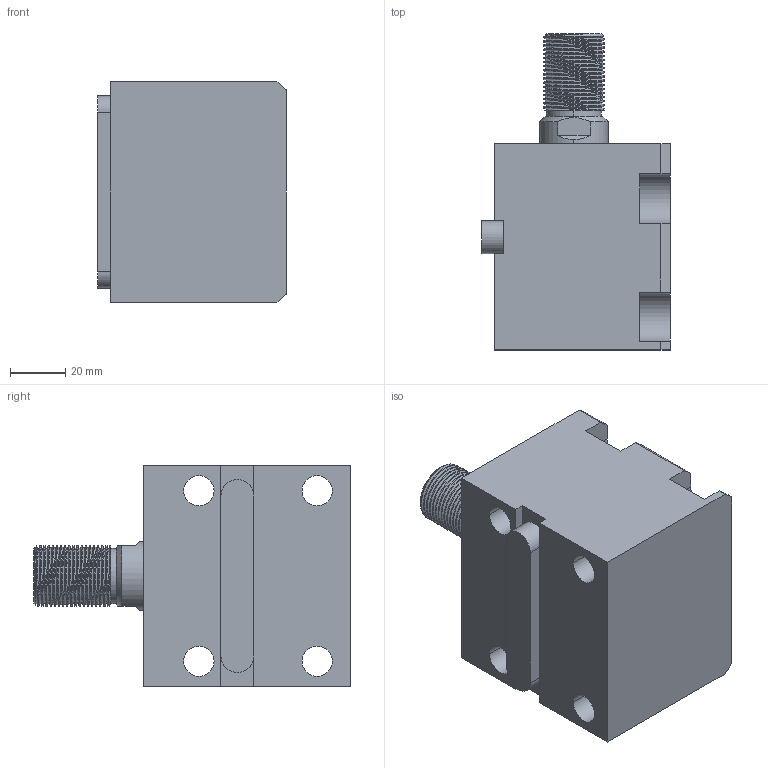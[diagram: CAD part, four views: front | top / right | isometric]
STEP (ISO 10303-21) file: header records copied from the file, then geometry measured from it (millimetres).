
FILE_DESCRIPTION (( 'STEP AP214' ), '1' );
FILE_NAME ('chtb-la40x20w_asm.STEP', '2018-06-04T00:35:02', ( 'Windows' ), ( 'Microsoft' ), 'SwSTEP 2.0', 'SolidWorks 2015', '' );
FILE_SCHEMA (( 'AUTOMOTIVE_DESIGN' ));
Length unit declared in the file: millimetre
Products named in the file (5): CHTB-SD40X20WHSG; CHTB-SD40QG; CHTB-LA40X20NBT; CHTB-LA40PJ; chtb-la40x20w_asm
Assembly tree (4 placements, depth 2):
  chtb-la40x20w_asm
    CHTB-LA40PJ
    CHTB-LA40X20NBT
    CHTB-SD40QG
    CHTB-SD40X20WHSG
Bounding box: 68.5 x 115 x 80 mm (x, y, z)
Volume: 347660 mm3; surface area: 76524.8 mm2
Topology: 4 solids, 5 shells, 205 faces, 559 edges, 373 vertices
Faces by surface type: cylinder 111, plane 52, bspline 16, cone 14, torus 12
Entity records: 13775 total; most frequent: CARTESIAN_POINT 8706, ORIENTED_EDGE 1106, DIRECTION 926, EDGE_CURVE 553, VERTEX_POINT 373, AXIS2_PLACEMENT_3D 363, EDGE_LOOP 234, FACE_OUTER_BOUND 205
